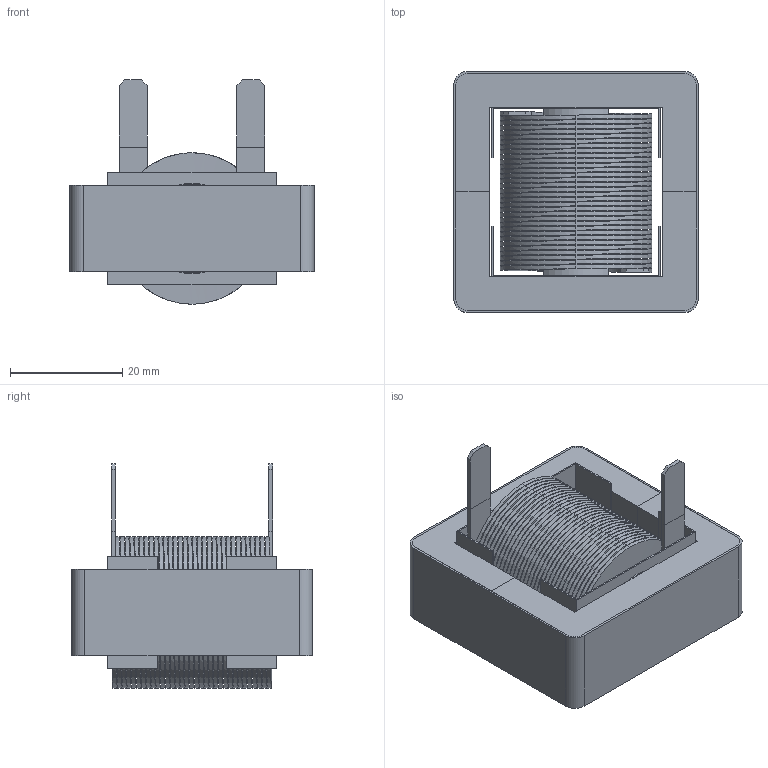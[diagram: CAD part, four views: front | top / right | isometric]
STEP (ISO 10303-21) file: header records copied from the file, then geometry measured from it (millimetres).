
FILE_DESCRIPTION (( 'STEP AP214' ), '1' );
FILE_NAME ('E70340-015.STEP', '2021-07-29T11:10:48', ( '' ), ( '' ), 'SwSTEP 2.0', 'SolidWorks 2015', '' );
FILE_SCHEMA (( 'AUTOMOTIVE_DESIGN' ));
Length unit declared in the file: millimetre
Products named in the file (6): SIDE MYLAR; WRAPPER; E70340-015; E CORE; CENTER MYLAR; HELICAL COIL
Assembly tree (7 placements, depth 2):
  E70340-015
    HELICAL COIL
    E CORE  x2
    SIDE MYLAR  x2
    CENTER MYLAR
    WRAPPER
Bounding box: 43.56 x 42.98 x 40 mm (x, y, z)
Volume: 28023.7 mm3; surface area: 45332.6 mm2
Topology: 9 solids, 9 shells, 434 faces, 1170 edges, 772 vertices
Faces by surface type: plane 209, cylinder 160, bspline 65
Entity records: 21412 total; most frequent: CARTESIAN_POINT 10509, ORIENTED_EDGE 2180, DIRECTION 1448, EDGE_CURVE 1090, VERTEX_POINT 720, VECTOR 642, LINE 642, EDGE_LOOP 426
